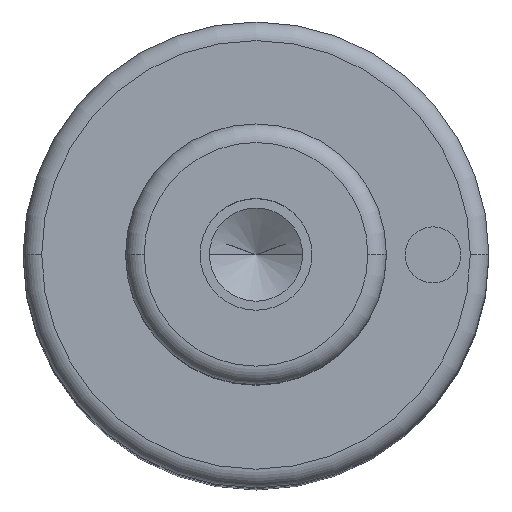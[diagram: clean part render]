
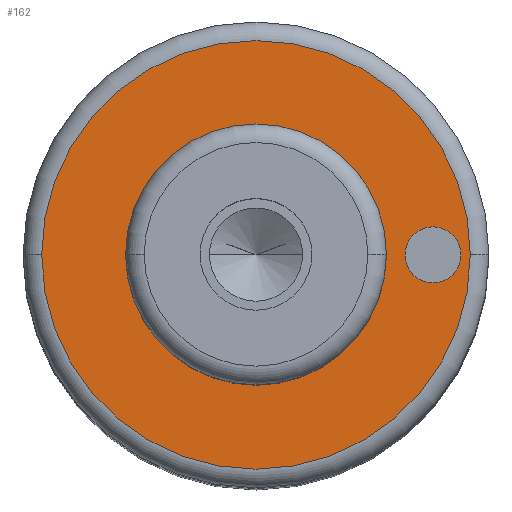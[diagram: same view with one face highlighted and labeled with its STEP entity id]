
A CAD part, top view. The second image highlights one B-rep face of the part: STEP entity #162.
In plain terms, the highlighted planar face has unit normal (0, 0, 1).
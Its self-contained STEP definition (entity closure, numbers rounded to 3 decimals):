
#105=PLANE('',#660);
#113=FACE_BOUND('',#237,.T.);
#114=FACE_BOUND('',#238,.T.);
#115=FACE_BOUND('',#239,.T.);
#162=ADVANCED_FACE('',(#113,#114,#115),#105,.T.);
#237=EDGE_LOOP('',(#393,#394));
#238=EDGE_LOOP('',(#395,#396));
#239=EDGE_LOOP('',(#397,#398));
#269=CIRCLE('',#628,7.);
#270=CIRCLE('',#630,7.);
#274=CIRCLE('',#635,11.5);
#275=CIRCLE('',#637,11.5);
#287=CIRCLE('',#658,1.5);
#288=CIRCLE('',#659,1.5);
#393=ORIENTED_EDGE('',*,*,#512,.F.);
#394=ORIENTED_EDGE('',*,*,#513,.F.);
#395=ORIENTED_EDGE('',*,*,#531,.F.);
#396=ORIENTED_EDGE('',*,*,#532,.F.);
#397=ORIENTED_EDGE('',*,*,#508,.T.);
#398=ORIENTED_EDGE('',*,*,#506,.T.);
#454=VERTEX_POINT('',#925);
#455=VERTEX_POINT('',#927);
#456=VERTEX_POINT('',#933);
#459=VERTEX_POINT('',#938);
#468=VERTEX_POINT('',#977);
#469=VERTEX_POINT('',#978);
#506=EDGE_CURVE('',#455,#454,#269,.T.);
#508=EDGE_CURVE('',#454,#455,#270,.T.);
#512=EDGE_CURVE('',#459,#456,#274,.T.);
#513=EDGE_CURVE('',#456,#459,#275,.T.);
#531=EDGE_CURVE('',#468,#469,#287,.T.);
#532=EDGE_CURVE('',#469,#468,#288,.T.);
#628=AXIS2_PLACEMENT_3D('',#926,#749,#750);
#630=AXIS2_PLACEMENT_3D('',#930,#754,#755);
#635=AXIS2_PLACEMENT_3D('',#939,#764,#765);
#637=AXIS2_PLACEMENT_3D('',#941,#768,#769);
#658=AXIS2_PLACEMENT_3D('',#976,#816,#817);
#659=AXIS2_PLACEMENT_3D('',#979,#818,#819);
#660=AXIS2_PLACEMENT_3D('',#980,#820,#821);
#749=DIRECTION('',(0.,0.,-1.));
#750=DIRECTION('',(0.,1.,0.));
#754=DIRECTION('',(0.,0.,-1.));
#755=DIRECTION('',(0.,-1.,0.));
#764=DIRECTION('',(0.,0.,-1.));
#765=DIRECTION('',(0.,1.,0.));
#768=DIRECTION('',(0.,0.,-1.));
#769=DIRECTION('',(0.,-1.,0.));
#816=DIRECTION('',(0.,0.,1.));
#817=DIRECTION('',(0.,1.,0.));
#818=DIRECTION('',(0.,0.,1.));
#819=DIRECTION('',(0.,-1.,0.));
#820=DIRECTION('',(0.,0.,1.));
#821=DIRECTION('',(0.,-1.,0.));
#925=CARTESIAN_POINT('',(-7.,0.,68.));
#926=CARTESIAN_POINT('',(0.,0.,68.));
#927=CARTESIAN_POINT('',(7.,0.,68.));
#930=CARTESIAN_POINT('',(0.,0.,68.));
#933=CARTESIAN_POINT('',(-11.5,0.,68.));
#938=CARTESIAN_POINT('',(11.5,0.,68.));
#939=CARTESIAN_POINT('',(0.,0.,68.));
#941=CARTESIAN_POINT('',(0.,0.,68.));
#976=CARTESIAN_POINT('',(9.5,0.,68.));
#977=CARTESIAN_POINT('',(8.,0.,68.));
#978=CARTESIAN_POINT('',(11.,0.,68.));
#979=CARTESIAN_POINT('',(9.5,0.,68.));
#980=CARTESIAN_POINT('',(0.,0.,68.));
